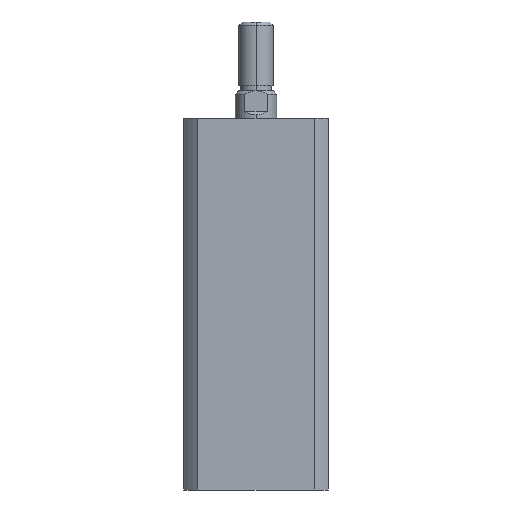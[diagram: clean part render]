
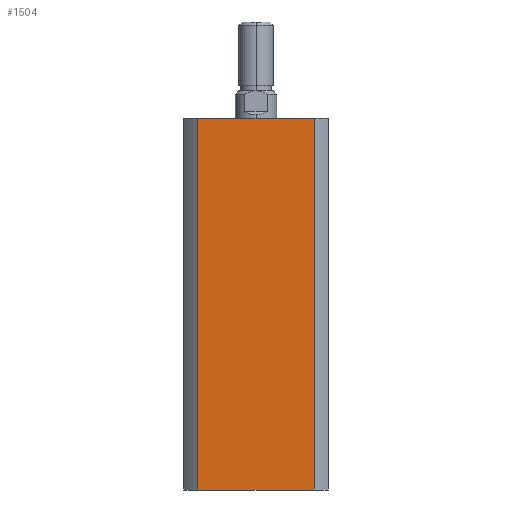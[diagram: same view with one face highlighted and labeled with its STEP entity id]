
A CAD part, left-side view. The second image highlights one B-rep face of the part: STEP entity #1504.
In plain terms, the highlighted planar face has unit normal (-1, 0, 0).
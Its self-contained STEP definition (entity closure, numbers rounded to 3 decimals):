
#132 = EDGE_LOOP ( 'NONE', ( #2853, #2854, #2855, #2856 ) ) ;
#1504 = ADVANCED_FACE ( 'NONE', ( #2217 ), #2123, .F. ) ;
#1688 = EDGE_CURVE ( 'NONE', #2529, #2553, #2400, .T. ) ;
#1696 = EDGE_CURVE ( 'NONE', #2553, #2533, #2416, .T. ) ;
#1697 = EDGE_CURVE ( 'NONE', #2530, #2529, #2418, .T. ) ;
#1840 = EDGE_CURVE ( 'NONE', #2530, #2533, #4514, .T. ) ;
#2120 = CARTESIAN_POINT ( 'NONE',  ( -21., 21., 108. ) ) ;
#2123 = PLANE ( 'NONE',  #3158 ) ;
#2125 = DIRECTION ( 'NONE',  ( 1., 0., 0. ) ) ;
#2126 = DIRECTION ( 'NONE',  ( 0., 1., 0. ) ) ;
#2217 = FACE_OUTER_BOUND ( 'NONE', #132, .T. ) ;
#2400 = LINE ( 'NONE', #3597, #2405 ) ;
#2405 = VECTOR ( 'NONE', #3591, 1000. ) ;
#2416 = LINE ( 'NONE', #3616, #2419 ) ;
#2418 = LINE ( 'NONE', #3618, #2421 ) ;
#2419 = VECTOR ( 'NONE', #3617, 1000. ) ;
#2421 = VECTOR ( 'NONE', #3619, 1000. ) ;
#2529 = VERTEX_POINT ( 'NONE', #4870 ) ;
#2530 = VERTEX_POINT ( 'NONE', #4871 ) ;
#2533 = VERTEX_POINT ( 'NONE', #4874 ) ;
#2553 = VERTEX_POINT ( 'NONE', #4894 ) ;
#2853 = ORIENTED_EDGE ( 'NONE', *, *, #1696, .F. ) ;
#2854 = ORIENTED_EDGE ( 'NONE', *, *, #1688, .F. ) ;
#2855 = ORIENTED_EDGE ( 'NONE', *, *, #1697, .F. ) ;
#2856 = ORIENTED_EDGE ( 'NONE', *, *, #1840, .T. ) ;
#3158 = AXIS2_PLACEMENT_3D ( 'NONE', #2120, #2125, #2126 ) ;
#3591 = DIRECTION ( 'NONE',  ( 0., -1., 0. ) ) ;
#3597 = CARTESIAN_POINT ( 'NONE',  ( -21., 21., 108. ) ) ;
#3616 = CARTESIAN_POINT ( 'NONE',  ( -21., -16.971, 108. ) ) ;
#3617 = DIRECTION ( 'NONE',  ( 0., 0., -1. ) ) ;
#3618 = CARTESIAN_POINT ( 'NONE',  ( -21., 16.971, 108. ) ) ;
#3619 = DIRECTION ( 'NONE',  ( 0., 0., 1. ) ) ;
#4178 = DIRECTION ( 'NONE',  ( 0., -1., 0. ) ) ;
#4182 = CARTESIAN_POINT ( 'NONE',  ( -21., 21., 0. ) ) ;
#4514 = LINE ( 'NONE', #4182, #4516 ) ;
#4516 = VECTOR ( 'NONE', #4178, 1000. ) ;
#4870 = CARTESIAN_POINT ( 'NONE',  ( -21., 16.971, 108. ) ) ;
#4871 = CARTESIAN_POINT ( 'NONE',  ( -21., 16.971, 0. ) ) ;
#4874 = CARTESIAN_POINT ( 'NONE',  ( -21., -16.971, 0. ) ) ;
#4894 = CARTESIAN_POINT ( 'NONE',  ( -21., -16.971, 108. ) ) ;
